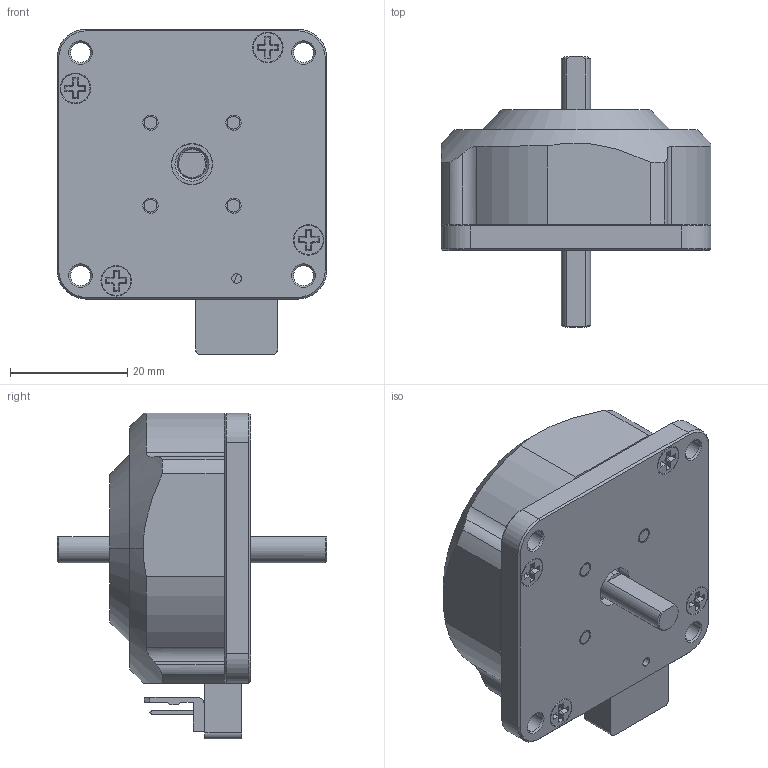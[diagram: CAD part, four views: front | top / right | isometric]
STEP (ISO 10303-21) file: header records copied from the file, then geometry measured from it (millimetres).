
FILE_DESCRIPTION (( 'STEP AP214' ), '1' );
FILE_NAME ('PSM40S_N_B_Ver2.5_Provide.STEP', '2024-08-04T12:18:19', ( '' ), ( '' ), 'SwSTEP 2.0', 'SolidWorks 2024', '' );
FILE_SCHEMA (( 'AUTOMOTIVE_DESIGN' ));
Length unit declared in the file: millimetre
Products named in the file (15): Molex_5045_Pin; Terminal_Cover_Ver2.1; Molex_5045_04A_Base; PSM40S_N_B_Ver2.5_Provide; PSM40_FPC_20200102_Ver1; PSM40_SS_Shaft_Ver1.0_Plus_Main; PSM40_SN_Shaft_Ver1.0_Plus_Sub; +teitou_M2.6-8_KJ; 625ZZ; Terminal_Plate_Ver1.2; 695ZZ_2; PSM40_Non_Magnetic_Base_Ver3.1; PSM40_Case_Ver1.3; +sara_M2.6-10_KJ; Assem_Molex_5045_04A
Assembly tree (23 placements, depth 3):
  PSM40S_N_B_Ver2.5_Provide
    PSM40_Non_Magnetic_Base_Ver3.1
    625ZZ
    PSM40_Case_Ver1.3
    Terminal_Plate_Ver1.2
    Terminal_Cover_Ver2.1
    Assem_Molex_5045_04A
      Molex_5045_04A_Base
      Molex_5045_Pin  x4
    695ZZ_2
    PSM40_FPC_20200102_Ver1
    +sara_M2.6-10_KJ  x4
    +teitou_M2.6-8_KJ  x4
    PSM40_SS_Shaft_Ver1.0_Plus_Main
    PSM40_SN_Shaft_Ver1.0_Plus_Sub
Bounding box: 46 x 46 x 55.5 mm (x, y, z)
Volume: 22393.2 mm3; surface area: 21336 mm2
Topology: 38 solids, 38 shells, 1009 faces, 2555 edges, 1646 vertices
Faces by surface type: plane 458, cylinder 393, cone 112, torus 16, bspline 16, sphere 14
Entity records: 25407 total; most frequent: DIRECTION 4507, CARTESIAN_POINT 4487, ORIENTED_EDGE 4064, EDGE_CURVE 2032, AXIS2_PLACEMENT_3D 1693, VERTEX_POINT 1319, LINE 1121, VECTOR 1121
